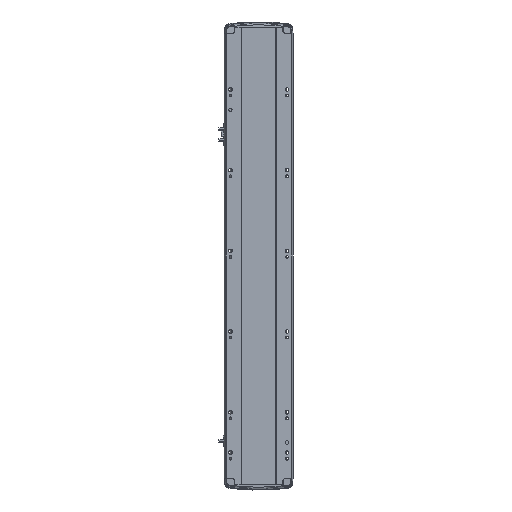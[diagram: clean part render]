
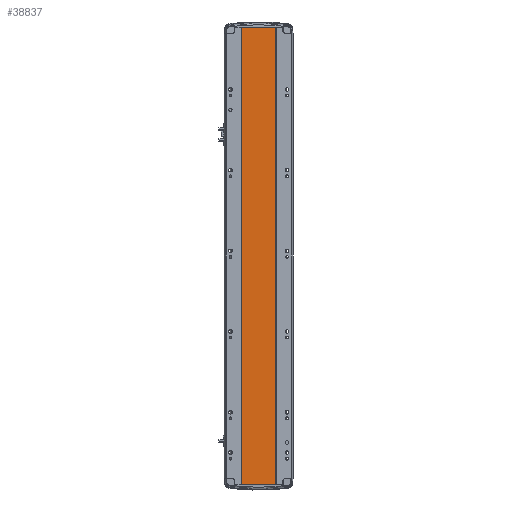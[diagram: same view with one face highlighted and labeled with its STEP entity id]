
A CAD part, front view. The second image highlights one B-rep face of the part: STEP entity #38837.
In plain terms, the highlighted planar face has unit normal (0, -1, 0).
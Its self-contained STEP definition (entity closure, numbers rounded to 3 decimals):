
#80 = DIRECTION ( 'NONE',  ( 1., 0., 0. ) ) ;
#1586 = LINE ( 'NONE', #6948, #5625 ) ;
#3824 = CARTESIAN_POINT ( 'NONE',  ( -41.791, 1., 1134.5 ) ) ;
#5625 = VECTOR ( 'NONE', #80, 1000. ) ;
#6948 = CARTESIAN_POINT ( 'NONE',  ( 0., 0.999, 0. ) ) ;
#7203 = DIRECTION ( 'NONE',  ( 0., 1., 0. ) ) ;
#9967 = VECTOR ( 'NONE', #10313, 1000. ) ;
#10313 = DIRECTION ( 'NONE',  ( 0., 0., -1. ) ) ;
#10364 = CARTESIAN_POINT ( 'NONE',  ( 41.793, 0.998, 0. ) ) ;
#10657 = ORIENTED_EDGE ( 'NONE', *, *, #18335, .T. ) ;
#10956 = LINE ( 'NONE', #16745, #9967 ) ;
#12773 = VERTEX_POINT ( 'NONE', #10364 ) ;
#13743 = CARTESIAN_POINT ( 'NONE',  ( 0., 0.999, 1134.5 ) ) ;
#14026 = DIRECTION ( 'NONE',  ( -1., 0., 0. ) ) ;
#15396 = ORIENTED_EDGE ( 'NONE', *, *, #16748, .F. ) ;
#15762 = EDGE_CURVE ( 'NONE', #34194, #12773, #10956, .T. ) ;
#15983 = CARTESIAN_POINT ( 'NONE',  ( -41.791, 1., 0. ) ) ;
#16704 = VERTEX_POINT ( 'NONE', #3824 ) ;
#16745 = CARTESIAN_POINT ( 'NONE',  ( 41.793, 0.998, 1134.5 ) ) ;
#16748 = EDGE_CURVE ( 'NONE', #16704, #34194, #16893, .T. ) ;
#16893 = LINE ( 'NONE', #23662, #32003 ) ;
#18335 = EDGE_CURVE ( 'NONE', #37400, #12773, #1586, .T. ) ;
#20701 = DIRECTION ( 'NONE',  ( 1., 0., 0. ) ) ;
#23662 = CARTESIAN_POINT ( 'NONE',  ( 0., 0.999, 1134.5 ) ) ;
#24134 = EDGE_CURVE ( 'NONE', #16704, #37400, #34421, .T. ) ;
#24843 = VECTOR ( 'NONE', #28998, 1000. ) ;
#26505 = PLANE ( 'NONE',  #27726 ) ;
#27726 = AXIS2_PLACEMENT_3D ( 'NONE', #13743, #7203, #14026 ) ;
#28541 = CARTESIAN_POINT ( 'NONE',  ( 41.793, 0.998, 1134.5 ) ) ;
#28998 = DIRECTION ( 'NONE',  ( 0., 0., -1. ) ) ;
#32003 = VECTOR ( 'NONE', #20701, 1000. ) ;
#34194 = VERTEX_POINT ( 'NONE', #28541 ) ;
#34421 = LINE ( 'NONE', #38921, #24843 ) ;
#35242 = EDGE_LOOP ( 'NONE', ( #10657, #36252, #15396, #36519 ) ) ;
#36252 = ORIENTED_EDGE ( 'NONE', *, *, #15762, .F. ) ;
#36519 = ORIENTED_EDGE ( 'NONE', *, *, #24134, .T. ) ;
#37400 = VERTEX_POINT ( 'NONE', #15983 ) ;
#38837 = ADVANCED_FACE ( 'NONE', ( #41460 ), #26505, .F. ) ;
#38921 = CARTESIAN_POINT ( 'NONE',  ( -41.791, 1., 1134.5 ) ) ;
#41460 = FACE_OUTER_BOUND ( 'NONE', #35242, .T. ) ;
